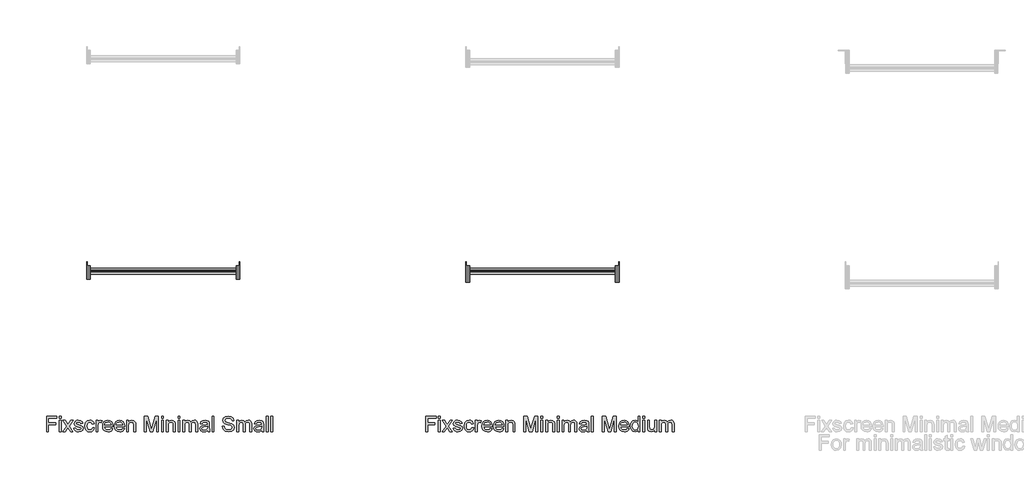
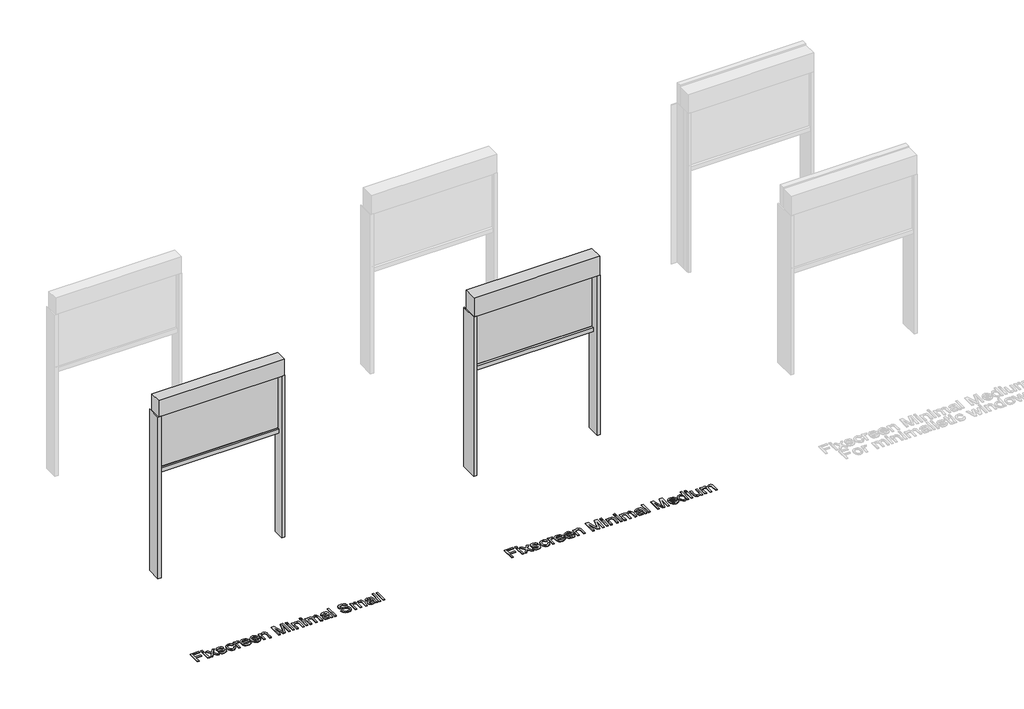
# One storey, part 1 of 3: 4 proxies.
"""IFC4 building model written with IfcOpenShell, lengths in millimetres."""

from ifc_helpers import new_model, si_unit, origin, origin_with_axes, place, context, project, spatial, polyline, outline, extrude, transform, mapped, element, save
from components import generic_models_a0941efc, generic_models_e03154b1

model = new_model("IFC4")

# Units and contexts
model_context = context("Model", 3, world=origin())
ifc_project = project(units=[si_unit("LENGTHUNIT", "METRE", prefix="MILLI")], contexts=[model_context])

# Site, building, storey
site = spatial("IfcSite", under=ifc_project)
building = spatial("IfcBuilding", under=site)
storey = spatial("IfcBuildingStorey", under=building, Name="Fixscreen Mini Overview Top", Elevation=0.0)

# Proxies
placement = place(None, origin())
generic_models_shape = generic_models_a0941efc(model_context)
element("IfcBuildingElementProxy", 1, Name="Renson_Fixscreen_Minimal_Single : Recessed - Front of the window - Small - Access downwards - Fabric close to the window", ObjectType="Renson_Fixscreen_Minimal_Single : Recessed - Front of the window - Small - Access downwards - Fabric close to the window", at=placement, inside=storey, context=model_context, shape_type="MappedRepresentation", body=[
    mapped(generic_models_shape, transform((-7521.5461115, -2124.4443675, 0.0), x_axis=(1.0, 0.0, 0.0), y_axis=(0.0, 1.0, 0.0), z_axis=(0.0, 0.0, 1.0))),
])
generic_models_2_shape = generic_models_e03154b1(model_context)
element("IfcBuildingElementProxy", 2, Name="Renson_Fixscreen_Minimal_Single : Recessed - Front of the window - Medium - Access downwards - Fabric close to the window", ObjectType="Renson_Fixscreen_Minimal_Single : Recessed - Front of the window - Medium - Access downwards - Fabric close to the window", at=placement, inside=storey, context=model_context, shape_type="MappedRepresentation", body=[
    mapped(generic_models_2_shape, transform((-5021.5461115, -2124.4443675, 0.0), x_axis=(1.0, 0.0, 0.0), y_axis=(0.0, 1.0, 0.0), z_axis=(0.0, 0.0, 1.0))),
])
element("IfcBuildingElementProxy", 3, Name="100mm Arial", ObjectType="100mm Arial", at=placement, inside=storey, context=model_context, shape_type="SweptSolid", body=[
    extrude(outline(polyline([(-8290.5587026, -2523.9021098), (-8290.5587026, -2423.4457997), (-8223.0646192, -2423.4457997), (-8223.0646192, -2436.0028384), (-8278.0016638, -2436.0028384), (-8278.0016638, -2465.8258055), (-8230.9127684, -2465.8258055), (-8230.9127684, -2478.3828443), (-8278.0016638, -2478.3828443), (-8278.0016638, -2523.9021098), (-8290.5587026, -2523.9021098)])), origin_with_axes(), (0.0, 0.0, 1.0), 5.0),
    extrude(outline(polyline([(-8207.3683207, -2523.9021098), (-8207.3683207, -2450.129507), (-8194.811282, -2450.129507), (-8194.811282, -2523.9021098), (-8207.3683207, -2523.9021098)])), origin_with_axes(), (0.0, 0.0, 1.0), 5.0),
    extrude(outline(polyline([(-8207.3683207, -2436.0028384), (-8207.3683207, -2423.4457997), (-8194.811282, -2423.4457997), (-8194.811282, -2436.0028384), (-8207.3683207, -2436.0028384)])), origin_with_axes(), (0.0, 0.0, 1.0), 5.0),
    extrude(outline(polyline([(-8183.823873, -2523.9021098), (-8156.9930128, -2486.8196047), (-8182.2542432, -2450.129507), (-8167.1465559, -2450.129507), (-8154.9573991, -2467.7878428), (-8149.2674909, -2476.1265014), (-8144.3378722, -2469.3084217), (-8130.4564583, -2450.129507), (-8115.348771, -2450.129507), (-8141.8853256, -2486.8196047), (-8116.3297896, -2523.9021098), (-8131.4374769, -2523.9021098), (-8146.8149443, -2501.6084609), (-8149.6353729, -2497.5372335), (-8168.7161858, -2523.9021098), (-8183.823873, -2523.9021098)])), origin_with_axes(), (0.0, 0.0, 1.0), 5.0),
    extrude(outline(polyline([(-8110.0512703, -2501.927292), (-8097.4942315, -2500.3576621), (-8091.681696, -2509.6773393), (-8078.3643677, -2512.9147009), (-8065.5620743, -2509.9471195), (-8061.392745, -2502.981887), (-8065.5865998, -2497.3410298), (-8078.5115205, -2493.7603117), (-8097.4206551, -2487.6166824), (-8105.6734745, -2480.4429835), (-8108.4816404, -2470.3139659), (-8106.2252975, -2460.9575004), (-8100.0694055, -2453.808327), (-8092.0863662, -2450.0927188), (-8081.2828982, -2448.5598772), (-8066.0035327, -2451.0246866), (-8056.291448, -2457.6956134), (-8051.974966, -2468.9650652), (-8064.5320047, -2470.534695), (-8069.253157, -2463.6062508), (-8080.3018796, -2461.116916), (-8092.3193581, -2463.4958862), (-8095.9246016, -2469.0386416), (-8094.4285482, -2472.6929361), (-8089.7441841, -2475.4643138), (-8078.9284535, -2478.1375896), (-8060.4975655, -2484.048227), (-8051.9381778, -2490.7436793), (-8048.8357063, -2501.6575118), (-8052.477738, -2513.6749903), (-8062.9869003, -2522.3937936), (-8078.536046, -2525.4717397), (-8091.197318, -2523.9879489), (-8100.4372875, -2519.5365768), (-8106.6054422, -2512.1666742), (-8110.0512703, -2501.927292)])), origin_with_axes(), (0.0, 0.0, 1.0), 5.0),
    extrude(outline(polyline([(-7987.6201423, -2497.2184024), (-7975.0631035, -2498.7880323), (-7978.5641138, -2509.9563165), (-7985.1430702, -2518.3961426), (-7994.1807045, -2523.7028404), (-8005.0577488, -2525.4717397), (-8018.4149309, -2523.0038646), (-8028.8597139, -2515.6002395), (-8035.6011515, -2503.5858266), (-8037.8482973, -2487.2855886), (-8034.0100619, -2466.4266794), (-8022.3114144, -2453.0235121), (-8005.2294271, -2448.5598772), (-7994.6190972, -2450.0927188), (-7986.1363516, -2454.6912438), (-7980.0509702, -2462.1101974), (-7976.6327333, -2472.1043249), (-7989.1897721, -2473.6739547), (-7995.0145704, -2464.2684384), (-8005.1313252, -2461.116916), (-8013.2461889, -2462.6681517), (-8019.6871895, -2467.321859), (-8023.8902413, -2475.3294237), (-8025.2912586, -2486.942232), (-8023.9208981, -2498.7113902), (-8019.8098168, -2506.7465461), (-8013.4853122, -2511.3726622), (-8005.4746818, -2512.9147009), (-7993.6411443, -2509.0642027), (-7987.6201423, -2497.2184024)])), origin_with_axes(), (0.0, 0.0, 1.0), 5.0),
    extrude(outline(polyline([(-7964.0756946, -2523.9021098), (-7964.0756946, -2450.129507), (-7953.0882857, -2450.129507), (-7953.0882857, -2461.0433396), (-7945.2891874, -2450.9878984), (-7937.4410381, -2448.5598772), (-7924.8349484, -2452.4349009), (-7929.0288032, -2463.6920899), (-7937.8579711, -2461.116916), (-7944.9580936, -2463.5939881), (-7949.4830421, -2470.4611186), (-7951.5186558, -2485.1273475), (-7951.5186558, -2523.9021098), (-7964.0756946, -2523.9021098)])), origin_with_axes(), (0.0, 0.0, 1.0), 5.0),
    extrude(outline(polyline([(-7865.3361671, -2501.927292), (-7853.024383, -2503.4969218), (-7857.4604267, -2512.7736795), (-7864.5390894, -2519.7082551), (-7874.1009556, -2524.0308685), (-7885.9866097, -2525.4717397), (-7900.7202836, -2522.9854705), (-7912.0571805, -2515.5266631), (-7919.2860617, -2503.5796953), (-7921.6956887, -2487.6289451), (-7919.2615362, -2471.1417003), (-7911.9590786, -2458.8115221), (-7900.7754659, -2451.1227884), (-7886.6978483, -2448.5598772), (-7873.0586233, -2451.1166571), (-7862.1601192, -2458.7869967), (-7855.0140114, -2471.0926494), (-7852.6319755, -2487.5553687), (-7852.7055519, -2490.939883), (-7909.13865, -2490.939883), (-7906.9650805, -2500.339268), (-7901.9159001, -2507.2493182), (-7894.6287709, -2511.4983552), (-7885.7413551, -2512.9147009), (-7873.429571, -2510.290476), (-7865.3361671, -2501.927292)]), holes=[polyline([(-7909.13865, -2478.3828443), (-7865.1890143, -2478.3828443), (-7870.2167349, -2467.0030279), (-7877.5375866, -2462.588444), (-7886.7468992, -2461.116916), (-7902.2102057, -2465.8135428), (-7907.0754451, -2471.3041816), (-7909.13865, -2478.3828443)])]), origin_with_axes(), (0.0, 0.0, 1.0), 5.0),
    extrude(outline(polyline([(-7788.4243046, -2501.927292), (-7776.1125205, -2503.4969218), (-7780.5485642, -2512.7736795), (-7787.627227, -2519.7082551), (-7797.1890931, -2524.0308685), (-7809.0747473, -2525.4717397), (-7823.8084212, -2522.9854705), (-7835.145318, -2515.5266631), (-7842.3741992, -2503.5796953), (-7844.7838263, -2487.6289451), (-7842.3496737, -2471.1417003), (-7835.0472161, -2458.8115221), (-7823.8636035, -2451.1227884), (-7809.7859858, -2448.5598772), (-7796.1467608, -2451.1166571), (-7785.2482567, -2458.7869967), (-7778.102149, -2471.0926494), (-7775.720113, -2487.5553687), (-7775.7936894, -2490.939883), (-7832.2267875, -2490.939883), (-7830.0532181, -2500.339268), (-7825.0040377, -2507.2493182), (-7817.7169085, -2511.4983552), (-7808.8294926, -2512.9147009), (-7796.5177085, -2510.290476), (-7788.4243046, -2501.927292)]), holes=[polyline([(-7832.2267875, -2478.3828443), (-7788.2771518, -2478.3828443), (-7793.3048724, -2467.0030279), (-7800.6257241, -2462.588444), (-7809.8350367, -2461.116916), (-7825.2983433, -2465.8135428), (-7830.1635827, -2471.3041816), (-7832.2267875, -2478.3828443)])]), origin_with_axes(), (0.0, 0.0, 1.0), 5.0),
    extrude(outline(polyline([(-7763.1630743, -2523.9021098), (-7763.1630743, -2450.129507), (-7750.6060355, -2450.129507), (-7750.6060355, -2460.4302029), (-7741.0043154, -2451.5274586), (-7727.8954537, -2448.5598772), (-7716.0373907, -2450.9511102), (-7707.9439868, -2457.2296296), (-7704.1793277, -2466.4634676), (-7703.5171401, -2478.6035735), (-7703.5171401, -2523.9021098), (-7716.0741789, -2523.9021098), (-7716.0741789, -2480.2958307), (-7717.5211814, -2469.1857944), (-7722.6347411, -2463.3119452), (-7731.2554426, -2461.116916), (-7744.8793391, -2466.0465347), (-7749.1743614, -2473.1895768), (-7750.6060355, -2484.7594655), (-7750.6060355, -2523.9021098), (-7763.1630743, -2523.9021098)])), origin_with_axes(), (0.0, 0.0, 1.0), 5.0),
    extrude(outline(polyline([(-7645.4408358, -2523.9021098), (-7645.4408358, -2423.4457997), (-7623.8339, -2423.4457997), (-7603.2815592, -2494.250821), (-7599.1367554, -2509.0396772), (-7594.648595, -2493.0245477), (-7574.4396108, -2423.4457997), (-7552.8326749, -2423.4457997), (-7552.8326749, -2523.9021098), (-7565.3897137, -2523.9021098), (-7565.3897137, -2436.0028384), (-7590.6264185, -2523.9021098), (-7607.6470922, -2523.9021098), (-7632.8837971, -2436.0028384), (-7632.8837971, -2523.9021098), (-7645.4408358, -2523.9021098)])), origin_with_axes(), (0.0, 0.0, 1.0), 5.0),
    extrude(outline(polyline([(-7532.4274869, -2436.0028384), (-7532.4274869, -2423.4457997), (-7519.8704481, -2423.4457997), (-7519.8704481, -2436.0028384), (-7532.4274869, -2436.0028384)])), origin_with_axes(), (0.0, 0.0, 1.0), 5.0),
    extrude(outline(polyline([(-7532.4274869, -2523.9021098), (-7532.4274869, -2450.129507), (-7519.8704481, -2450.129507), (-7519.8704481, -2523.9021098), (-7532.4274869, -2523.9021098)])), origin_with_axes(), (0.0, 0.0, 1.0), 5.0),
    extrude(outline(polyline([(-7501.03489, -2523.9021098), (-7501.03489, -2450.129507), (-7488.4778512, -2450.129507), (-7488.4778512, -2460.4302029), (-7478.8761311, -2451.5274586), (-7465.7672694, -2448.5598772), (-7453.9092064, -2450.9511102), (-7445.8158025, -2457.2296296), (-7442.0511434, -2466.4634676), (-7441.3889558, -2478.6035735), (-7441.3889558, -2523.9021098), (-7453.9459946, -2523.9021098), (-7453.9459946, -2480.2958307), (-7455.3929971, -2469.1857944), (-7460.5065568, -2463.3119452), (-7469.1272583, -2461.116916), (-7482.7511548, -2466.0465347), (-7487.0461771, -2473.1895768), (-7488.4778512, -2484.7594655), (-7488.4778512, -2523.9021098), (-7501.03489, -2523.9021098)])), origin_with_axes(), (0.0, 0.0, 1.0), 5.0),
    extrude(outline(polyline([(-7424.1230275, -2523.9021098), (-7424.1230275, -2450.129507), (-7411.5659888, -2450.129507), (-7411.5659888, -2523.9021098), (-7424.1230275, -2523.9021098)])), origin_with_axes(), (0.0, 0.0, 1.0), 5.0),
    extrude(outline(polyline([(-7424.1230275, -2436.0028384), (-7424.1230275, -2423.4457997), (-7411.5659888, -2423.4457997), (-7411.5659888, -2436.0028384), (-7424.1230275, -2436.0028384)])), origin_with_axes(), (0.0, 0.0, 1.0), 5.0),
    extrude(outline(polyline([(-7392.7304306, -2523.9021098), (-7392.7304306, -2450.129507), (-7380.1733918, -2450.129507), (-7380.1733918, -2462.2696129), (-7371.5404277, -2452.3245363), (-7359.253169, -2448.5598772), (-7346.6716048, -2452.3981127), (-7339.7554233, -2463.1525297), (-7329.9574995, -2452.2080403), (-7317.5844017, -2448.5598772), (-7308.1451629, -2450.0773904), (-7301.164602, -2454.6299301), (-7296.8511856, -2462.3401236), (-7295.4133801, -2473.3305982), (-7295.4133801, -2523.9021098), (-7307.9704189, -2523.9021098), (-7307.9704189, -2478.7262008), (-7309.1353786, -2468.2415639), (-7313.3537588, -2463.0789533), (-7320.5274577, -2461.116916), (-7332.87603, -2466.1446366), (-7336.564047, -2472.6868047), (-7337.793386, -2482.257868), (-7337.793386, -2523.9021098), (-7350.3504248, -2523.9021098), (-7350.3504248, -2477.3282492), (-7353.2566925, -2465.1636179), (-7362.7848362, -2461.116916), (-7372.0799879, -2463.8147173), (-7378.2604055, -2471.7119174), (-7380.1733918, -2486.6969774), (-7380.1733918, -2523.9021098), (-7392.7304306, -2523.9021098)])), origin_with_axes(), (0.0, 0.0, 1.0), 5.0),
    extrude(outline(polyline([(-7229.4889266, -2514.4843307), (-7241.6658206, -2522.9946676), (-7255.1180389, -2525.4717397), (-7265.6118729, -2523.9818176), (-7273.3527232, -2519.5120513), (-7278.1259921, -2512.7246285), (-7279.7170817, -2504.2817367), (-7277.313586, -2494.3489229), (-7270.9982784, -2487.1384358), (-7262.2058987, -2483.0181574), (-7251.3411171, -2481.1296965), (-7229.562503, -2476.8132144), (-7229.4889266, -2474.0173113), (-7232.9470174, -2464.746685), (-7246.8284313, -2461.116916), (-7259.5326229, -2463.5326744), (-7265.5904131, -2472.1043249), (-7278.1474518, -2470.534695), (-7272.715061, -2458.2719619), (-7261.7767031, -2451.0860002), (-7245.2097505, -2448.5598772), (-7229.9916987, -2450.7916946), (-7221.3955227, -2456.3957637), (-7217.5450245, -2464.9183633), (-7216.9318878, -2475.9057722), (-7216.9318878, -2491.5284942), (-7216.2942257, -2513.3438966), (-7213.7926281, -2523.9021098), (-7226.3496669, -2523.9021098), (-7229.4889266, -2514.4843307)]), holes=[polyline([(-7229.4889266, -2489.3702532), (-7249.7469618, -2493.2207514), (-7260.5504297, -2495.2563651), (-7265.4432603, -2498.5673031), (-7267.1600429, -2503.39882), (-7263.4199093, -2510.1923741), (-7252.4447631, -2512.9147009), (-7239.7405715, -2509.9103313), (-7231.5490658, -2502.6385305), (-7229.562503, -2492.9264458), (-7229.4889266, -2489.3702532)])]), origin_with_axes(), (0.0, 0.0, 1.0), 5.0),
    extrude(outline(polyline([(-7199.6659595, -2523.9021098), (-7199.6659595, -2423.4457997), (-7187.1089208, -2423.4457997), (-7187.1089208, -2523.9021098), (-7199.6659595, -2523.9021098)])), origin_with_axes(), (0.0, 0.0, 1.0), 5.0),
    extrude(outline(polyline([(-7132.1718762, -2489.3702532), (-7119.6148374, -2489.3702532), (-7115.5681354, -2501.9395547), (-7105.6843725, -2509.8858058), (-7090.6257362, -2512.9147009), (-7077.5046117, -2510.6215698), (-7069.031063, -2504.3185249), (-7066.2474226, -2495.8940272), (-7068.3320873, -2488.0581408), (-7076.8669495, -2482.3559698), (-7095.1506847, -2477.5612412), (-7114.8323714, -2471.3685609), (-7125.513212, -2462.0243582), (-7129.0326165, -2449.5408959), (-7124.6793462, -2435.3283881), (-7111.9628919, -2425.2974724), (-7093.3480629, -2421.8761698), (-7073.4824352, -2425.4568879), (-7060.2386834, -2435.978313), (-7055.2600137, -2451.6991369), (-7067.8170525, -2451.6991369), (-7070.1224463, -2444.2066069), (-7074.9294377, -2438.7987416), (-7092.8575536, -2434.4332086), (-7110.8347204, -2438.7496907), (-7116.4755777, -2449.1730139), (-7112.4779267, -2457.8795544), (-7091.9746368, -2464.8938378), (-7069.7545643, -2471.1968826), (-7057.6021957, -2481.3749512), (-7053.6903838, -2495.5751962), (-7058.1908069, -2510.5970443), (-7071.1402532, -2521.5599278), (-7090.1352268, -2525.4717397), (-7112.5637658, -2521.2533595), (-7126.7517481, -2508.5491679), (-7132.1718762, -2489.3702532)])), origin_with_axes(), (0.0, 0.0, 1.0), 5.0),
    extrude(outline(polyline([(-7036.4244555, -2523.9021098), (-7036.4244555, -2450.129507), (-7023.8674168, -2450.129507), (-7023.8674168, -2462.2696129), (-7015.2344526, -2452.3245363), (-7002.947194, -2448.5598772), (-6990.3656297, -2452.3981127), (-6983.4494482, -2463.1525297), (-6973.6515244, -2452.2080403), (-6961.2784267, -2448.5598772), (-6951.8391878, -2450.0773904), (-6944.8586269, -2454.6299301), (-6940.5452105, -2462.3401236), (-6939.1074051, -2473.3305982), (-6939.1074051, -2523.9021098), (-6951.6644439, -2523.9021098), (-6951.6644439, -2478.7262008), (-6952.8294035, -2468.2415639), (-6957.0477837, -2463.0789533), (-6964.2214826, -2461.116916), (-6976.5700549, -2466.1446366), (-6980.2580719, -2472.6868047), (-6981.4874109, -2482.257868), (-6981.4874109, -2523.9021098), (-6994.0444497, -2523.9021098), (-6994.0444497, -2477.3282492), (-6996.9507175, -2465.1636179), (-7006.4788611, -2461.116916), (-7015.7740129, -2463.8147173), (-7021.9544304, -2471.7119174), (-7023.8674168, -2486.6969774), (-7023.8674168, -2523.9021098), (-7036.4244555, -2523.9021098)])), origin_with_axes(), (0.0, 0.0, 1.0), 5.0),
    extrude(outline(polyline([(-6873.1829515, -2514.4843307), (-6885.3598456, -2522.9946676), (-6898.8120639, -2525.4717397), (-6909.3058978, -2523.9818176), (-6917.0467481, -2519.5120513), (-6921.820017, -2512.7246285), (-6923.4111066, -2504.2817367), (-6921.0076109, -2494.3489229), (-6914.6923033, -2487.1384358), (-6905.8999237, -2483.0181574), (-6895.0351421, -2481.1296965), (-6873.2565279, -2476.8132144), (-6873.1829515, -2474.0173113), (-6876.6410423, -2464.746685), (-6890.5224563, -2461.116916), (-6903.2266478, -2463.5326744), (-6909.284438, -2472.1043249), (-6921.8414768, -2470.534695), (-6916.409086, -2458.2719619), (-6905.470728, -2451.0860002), (-6888.9037755, -2448.5598772), (-6873.6857236, -2450.7916946), (-6865.0895477, -2456.3957637), (-6861.2390494, -2464.9183633), (-6860.6259128, -2475.9057722), (-6860.6259128, -2491.5284942), (-6859.9882507, -2513.3438966), (-6857.4866531, -2523.9021098), (-6870.0436919, -2523.9021098), (-6873.1829515, -2514.4843307)]), holes=[polyline([(-6873.1829515, -2489.3702532), (-6893.4409867, -2493.2207514), (-6904.2444547, -2495.2563651), (-6909.1372852, -2498.5673031), (-6910.8540679, -2503.39882), (-6907.1139342, -2510.1923741), (-6896.138788, -2512.9147009), (-6883.4345965, -2509.9103313), (-6875.2430907, -2502.6385305), (-6873.2565279, -2492.9264458), (-6873.1829515, -2489.3702532)])]), origin_with_axes(), (0.0, 0.0, 1.0), 5.0),
    extrude(outline(polyline([(-6843.3599845, -2523.9021098), (-6843.3599845, -2423.4457997), (-6830.8029457, -2423.4457997), (-6830.8029457, -2523.9021098), (-6843.3599845, -2523.9021098)])), origin_with_axes(), (0.0, 0.0, 1.0), 5.0),
    extrude(outline(polyline([(-6811.9673875, -2523.9021098), (-6811.9673875, -2423.4457997), (-6799.4103488, -2423.4457997), (-6799.4103488, -2523.9021098), (-6811.9673875, -2523.9021098)])), origin_with_axes(), (0.0, 0.0, 1.0), 5.0),
])
element("IfcBuildingElementProxy", 4, Name="100mm Arial", ObjectType="100mm Arial", at=placement, inside=storey, context=model_context, shape_type="SweptSolid", body=[
    extrude(outline(polyline([(-5790.5587026, -2523.9021098), (-5790.5587026, -2423.4457997), (-5723.0646192, -2423.4457997), (-5723.0646192, -2436.0028384), (-5778.0016638, -2436.0028384), (-5778.0016638, -2465.8258055), (-5730.9127684, -2465.8258055), (-5730.9127684, -2478.3828443), (-5778.0016638, -2478.3828443), (-5778.0016638, -2523.9021098), (-5790.5587026, -2523.9021098)])), origin_with_axes(), (0.0, 0.0, 1.0), 5.0),
    extrude(outline(polyline([(-5707.3683207, -2523.9021098), (-5707.3683207, -2450.129507), (-5694.811282, -2450.129507), (-5694.811282, -2523.9021098), (-5707.3683207, -2523.9021098)])), origin_with_axes(), (0.0, 0.0, 1.0), 5.0),
    extrude(outline(polyline([(-5707.3683207, -2436.0028384), (-5707.3683207, -2423.4457997), (-5694.811282, -2423.4457997), (-5694.811282, -2436.0028384), (-5707.3683207, -2436.0028384)])), origin_with_axes(), (0.0, 0.0, 1.0), 5.0),
    extrude(outline(polyline([(-5683.823873, -2523.9021098), (-5656.9930128, -2486.8196047), (-5682.2542432, -2450.129507), (-5667.1465559, -2450.129507), (-5654.9573991, -2467.7878428), (-5649.2674909, -2476.1265014), (-5644.3378722, -2469.3084217), (-5630.4564583, -2450.129507), (-5615.348771, -2450.129507), (-5641.8853256, -2486.8196047), (-5616.3297896, -2523.9021098), (-5631.4374769, -2523.9021098), (-5646.8149443, -2501.6084609), (-5649.6353729, -2497.5372335), (-5668.7161858, -2523.9021098), (-5683.823873, -2523.9021098)])), origin_with_axes(), (0.0, 0.0, 1.0), 5.0),
    extrude(outline(polyline([(-5610.0512703, -2501.927292), (-5597.4942315, -2500.3576621), (-5591.681696, -2509.6773393), (-5578.3643677, -2512.9147009), (-5565.5620743, -2509.9471195), (-5561.392745, -2502.981887), (-5565.5865998, -2497.3410298), (-5578.5115205, -2493.7603117), (-5597.4206551, -2487.6166824), (-5605.6734745, -2480.4429835), (-5608.4816404, -2470.3139659), (-5606.2252975, -2460.9575004), (-5600.0694055, -2453.808327), (-5592.0863662, -2450.0927188), (-5581.2828982, -2448.5598772), (-5566.0035327, -2451.0246866), (-5556.291448, -2457.6956134), (-5551.974966, -2468.9650652), (-5564.5320047, -2470.534695), (-5569.253157, -2463.6062508), (-5580.3018796, -2461.116916), (-5592.3193581, -2463.4958862), (-5595.9246016, -2469.0386416), (-5594.4285482, -2472.6929361), (-5589.7441841, -2475.4643138), (-5578.9284535, -2478.1375896), (-5560.4975655, -2484.048227), (-5551.9381778, -2490.7436793), (-5548.8357063, -2501.6575118), (-5552.477738, -2513.6749903), (-5562.9869003, -2522.3937936), (-5578.536046, -2525.4717397), (-5591.197318, -2523.9879489), (-5600.4372875, -2519.5365768), (-5606.6054422, -2512.1666742), (-5610.0512703, -2501.927292)])), origin_with_axes(), (0.0, 0.0, 1.0), 5.0),
    extrude(outline(polyline([(-5487.6201423, -2497.2184024), (-5475.0631035, -2498.7880323), (-5478.5641138, -2509.9563165), (-5485.1430702, -2518.3961426), (-5494.1807045, -2523.7028404), (-5505.0577488, -2525.4717397), (-5518.4149309, -2523.0038646), (-5528.8597139, -2515.6002395), (-5535.6011515, -2503.5858266), (-5537.8482973, -2487.2855886), (-5534.0100619, -2466.4266794), (-5522.3114144, -2453.0235121), (-5505.2294271, -2448.5598772), (-5494.6190972, -2450.0927188), (-5486.1363516, -2454.6912438), (-5480.0509702, -2462.1101974), (-5476.6327333, -2472.1043249), (-5489.1897721, -2473.6739547), (-5495.0145704, -2464.2684384), (-5505.1313252, -2461.116916), (-5513.2461889, -2462.6681517), (-5519.6871895, -2467.321859), (-5523.8902413, -2475.3294237), (-5525.2912586, -2486.942232), (-5523.9208981, -2498.7113902), (-5519.8098168, -2506.7465461), (-5513.4853122, -2511.3726622), (-5505.4746818, -2512.9147009), (-5493.6411443, -2509.0642027), (-5487.6201423, -2497.2184024)])), origin_with_axes(), (0.0, 0.0, 1.0), 5.0),
    extrude(outline(polyline([(-5464.0756946, -2523.9021098), (-5464.0756946, -2450.129507), (-5453.0882857, -2450.129507), (-5453.0882857, -2461.0433396), (-5445.2891874, -2450.9878984), (-5437.4410381, -2448.5598772), (-5424.8349484, -2452.4349009), (-5429.0288032, -2463.6920899), (-5437.8579711, -2461.116916), (-5444.9580936, -2463.5939881), (-5449.4830421, -2470.4611186), (-5451.5186558, -2485.1273475), (-5451.5186558, -2523.9021098), (-5464.0756946, -2523.9021098)])), origin_with_axes(), (0.0, 0.0, 1.0), 5.0),
    extrude(outline(polyline([(-5365.3361671, -2501.927292), (-5353.024383, -2503.4969218), (-5357.4604267, -2512.7736795), (-5364.5390894, -2519.7082551), (-5374.1009556, -2524.0308685), (-5385.9866097, -2525.4717397), (-5400.7202836, -2522.9854705), (-5412.0571805, -2515.5266631), (-5419.2860617, -2503.5796953), (-5421.6956887, -2487.6289451), (-5419.2615362, -2471.1417003), (-5411.9590786, -2458.8115221), (-5400.7754659, -2451.1227884), (-5386.6978483, -2448.5598772), (-5373.0586233, -2451.1166571), (-5362.1601192, -2458.7869967), (-5355.0140114, -2471.0926494), (-5352.6319755, -2487.5553687), (-5352.7055519, -2490.939883), (-5409.13865, -2490.939883), (-5406.9650805, -2500.339268), (-5401.9159001, -2507.2493182), (-5394.6287709, -2511.4983552), (-5385.7413551, -2512.9147009), (-5373.429571, -2510.290476), (-5365.3361671, -2501.927292)]), holes=[polyline([(-5409.13865, -2478.3828443), (-5365.1890143, -2478.3828443), (-5370.2167349, -2467.0030279), (-5377.5375866, -2462.588444), (-5386.7468992, -2461.116916), (-5402.2102057, -2465.8135428), (-5407.0754451, -2471.3041816), (-5409.13865, -2478.3828443)])]), origin_with_axes(), (0.0, 0.0, 1.0), 5.0),
    extrude(outline(polyline([(-5288.4243046, -2501.927292), (-5276.1125205, -2503.4969218), (-5280.5485642, -2512.7736795), (-5287.627227, -2519.7082551), (-5297.1890931, -2524.0308685), (-5309.0747473, -2525.4717397), (-5323.8084212, -2522.9854705), (-5335.145318, -2515.5266631), (-5342.3741992, -2503.5796953), (-5344.7838263, -2487.6289451), (-5342.3496737, -2471.1417003), (-5335.0472161, -2458.8115221), (-5323.8636035, -2451.1227884), (-5309.7859858, -2448.5598772), (-5296.1467608, -2451.1166571), (-5285.2482567, -2458.7869967), (-5278.102149, -2471.0926494), (-5275.720113, -2487.5553687), (-5275.7936894, -2490.939883), (-5332.2267875, -2490.939883), (-5330.0532181, -2500.339268), (-5325.0040377, -2507.2493182), (-5317.7169085, -2511.4983552), (-5308.8294926, -2512.9147009), (-5296.5177085, -2510.290476), (-5288.4243046, -2501.927292)]), holes=[polyline([(-5332.2267875, -2478.3828443), (-5288.2771518, -2478.3828443), (-5293.3048724, -2467.0030279), (-5300.6257241, -2462.588444), (-5309.8350367, -2461.116916), (-5325.2983433, -2465.8135428), (-5330.1635827, -2471.3041816), (-5332.2267875, -2478.3828443)])]), origin_with_axes(), (0.0, 0.0, 1.0), 5.0),
    extrude(outline(polyline([(-5263.1630743, -2523.9021098), (-5263.1630743, -2450.129507), (-5250.6060355, -2450.129507), (-5250.6060355, -2460.4302029), (-5241.0043154, -2451.5274586), (-5227.8954537, -2448.5598772), (-5216.0373907, -2450.9511102), (-5207.9439868, -2457.2296296), (-5204.1793277, -2466.4634676), (-5203.5171401, -2478.6035735), (-5203.5171401, -2523.9021098), (-5216.0741789, -2523.9021098), (-5216.0741789, -2480.2958307), (-5217.5211814, -2469.1857944), (-5222.6347411, -2463.3119452), (-5231.2554426, -2461.116916), (-5244.8793391, -2466.0465347), (-5249.1743614, -2473.1895768), (-5250.6060355, -2484.7594655), (-5250.6060355, -2523.9021098), (-5263.1630743, -2523.9021098)])), origin_with_axes(), (0.0, 0.0, 1.0), 5.0),
    extrude(outline(polyline([(-5145.4408358, -2523.9021098), (-5145.4408358, -2423.4457997), (-5123.8339, -2423.4457997), (-5103.2815592, -2494.250821), (-5099.1367554, -2509.0396772), (-5094.648595, -2493.0245477), (-5074.4396108, -2423.4457997), (-5052.8326749, -2423.4457997), (-5052.8326749, -2523.9021098), (-5065.3897137, -2523.9021098), (-5065.3897137, -2436.0028384), (-5090.6264185, -2523.9021098), (-5107.6470922, -2523.9021098), (-5132.8837971, -2436.0028384), (-5132.8837971, -2523.9021098), (-5145.4408358, -2523.9021098)])), origin_with_axes(), (0.0, 0.0, 1.0), 5.0),
    extrude(outline(polyline([(-5032.4274869, -2436.0028384), (-5032.4274869, -2423.4457997), (-5019.8704481, -2423.4457997), (-5019.8704481, -2436.0028384), (-5032.4274869, -2436.0028384)])), origin_with_axes(), (0.0, 0.0, 1.0), 5.0),
    extrude(outline(polyline([(-5032.4274869, -2523.9021098), (-5032.4274869, -2450.129507), (-5019.8704481, -2450.129507), (-5019.8704481, -2523.9021098), (-5032.4274869, -2523.9021098)])), origin_with_axes(), (0.0, 0.0, 1.0), 5.0),
    extrude(outline(polyline([(-5001.03489, -2523.9021098), (-5001.03489, -2450.129507), (-4988.4778512, -2450.129507), (-4988.4778512, -2460.4302029), (-4978.8761311, -2451.5274586), (-4965.7672694, -2448.5598772), (-4953.9092064, -2450.9511102), (-4945.8158025, -2457.2296296), (-4942.0511434, -2466.4634676), (-4941.3889558, -2478.6035735), (-4941.3889558, -2523.9021098), (-4953.9459946, -2523.9021098), (-4953.9459946, -2480.2958307), (-4955.3929971, -2469.1857944), (-4960.5065568, -2463.3119452), (-4969.1272583, -2461.116916), (-4982.7511548, -2466.0465347), (-4987.0461771, -2473.1895768), (-4988.4778512, -2484.7594655), (-4988.4778512, -2523.9021098), (-5001.03489, -2523.9021098)])), origin_with_axes(), (0.0, 0.0, 1.0), 5.0),
    extrude(outline(polyline([(-4924.1230275, -2523.9021098), (-4924.1230275, -2450.129507), (-4911.5659888, -2450.129507), (-4911.5659888, -2523.9021098), (-4924.1230275, -2523.9021098)])), origin_with_axes(), (0.0, 0.0, 1.0), 5.0),
    extrude(outline(polyline([(-4924.1230275, -2436.0028384), (-4924.1230275, -2423.4457997), (-4911.5659888, -2423.4457997), (-4911.5659888, -2436.0028384), (-4924.1230275, -2436.0028384)])), origin_with_axes(), (0.0, 0.0, 1.0), 5.0),
    extrude(outline(polyline([(-4892.7304306, -2523.9021098), (-4892.7304306, -2450.129507), (-4880.1733918, -2450.129507), (-4880.1733918, -2462.2696129), (-4871.5404277, -2452.3245363), (-4859.253169, -2448.5598772), (-4846.6716048, -2452.3981127), (-4839.7554233, -2463.1525297), (-4829.9574995, -2452.2080403), (-4817.5844017, -2448.5598772), (-4808.1451629, -2450.0773904), (-4801.164602, -2454.6299301), (-4796.8511856, -2462.3401236), (-4795.4133801, -2473.3305982), (-4795.4133801, -2523.9021098), (-4807.9704189, -2523.9021098), (-4807.9704189, -2478.7262008), (-4809.1353786, -2468.2415639), (-4813.3537588, -2463.0789533), (-4820.5274577, -2461.116916), (-4832.87603, -2466.1446366), (-4836.564047, -2472.6868047), (-4837.793386, -2482.257868), (-4837.793386, -2523.9021098), (-4850.3504248, -2523.9021098), (-4850.3504248, -2477.3282492), (-4853.2566925, -2465.1636179), (-4862.7848362, -2461.116916), (-4872.0799879, -2463.8147173), (-4878.2604055, -2471.7119174), (-4880.1733918, -2486.6969774), (-4880.1733918, -2523.9021098), (-4892.7304306, -2523.9021098)])), origin_with_axes(), (0.0, 0.0, 1.0), 5.0),
    extrude(outline(polyline([(-4729.4889266, -2514.4843307), (-4741.6658206, -2522.9946676), (-4755.1180389, -2525.4717397), (-4765.6118729, -2523.9818176), (-4773.3527232, -2519.5120513), (-4778.1259921, -2512.7246285), (-4779.7170817, -2504.2817367), (-4777.313586, -2494.3489229), (-4770.9982784, -2487.1384358), (-4762.2058987, -2483.0181574), (-4751.3411171, -2481.1296965), (-4729.562503, -2476.8132144), (-4729.4889266, -2474.0173113), (-4732.9470174, -2464.746685), (-4746.8284313, -2461.116916), (-4759.5326229, -2463.5326744), (-4765.5904131, -2472.1043249), (-4778.1474518, -2470.534695), (-4772.715061, -2458.2719619), (-4761.7767031, -2451.0860002), (-4745.2097505, -2448.5598772), (-4729.9916987, -2450.7916946), (-4721.3955227, -2456.3957637), (-4717.5450245, -2464.9183633), (-4716.9318878, -2475.9057722), (-4716.9318878, -2491.5284942), (-4716.2942257, -2513.3438966), (-4713.7926281, -2523.9021098), (-4726.3496669, -2523.9021098), (-4729.4889266, -2514.4843307)]), holes=[polyline([(-4729.4889266, -2489.3702532), (-4749.7469618, -2493.2207514), (-4760.5504297, -2495.2563651), (-4765.4432603, -2498.5673031), (-4767.1600429, -2503.39882), (-4763.4199093, -2510.1923741), (-4752.4447631, -2512.9147009), (-4739.7405715, -2509.9103313), (-4731.5490658, -2502.6385305), (-4729.562503, -2492.9264458), (-4729.4889266, -2489.3702532)])]), origin_with_axes(), (0.0, 0.0, 1.0), 5.0),
    extrude(outline(polyline([(-4699.6659595, -2523.9021098), (-4699.6659595, -2423.4457997), (-4687.1089208, -2423.4457997), (-4687.1089208, -2523.9021098), (-4699.6659595, -2523.9021098)])), origin_with_axes(), (0.0, 0.0, 1.0), 5.0),
    extrude(outline(polyline([(-4627.4629866, -2523.9021098), (-4627.4629866, -2423.4457997), (-4605.8560508, -2423.4457997), (-4585.30371, -2494.250821), (-4581.1589062, -2509.0396772), (-4576.6707458, -2493.0245477), (-4556.4617615, -2423.4457997), (-4534.8548257, -2423.4457997), (-4534.8548257, -2523.9021098), (-4547.4118645, -2523.9021098), (-4547.4118645, -2436.0028384), (-4572.6485693, -2523.9021098), (-4589.669243, -2523.9021098), (-4614.9059478, -2436.0028384), (-4614.9059478, -2523.9021098), (-4627.4629866, -2523.9021098)])), origin_with_axes(), (0.0, 0.0, 1.0), 5.0),
    extrude(outline(polyline([(-4462.7990056, -2501.927292), (-4450.4872215, -2503.4969218), (-4454.9232652, -2512.7736795), (-4462.0019279, -2519.7082551), (-4471.5637941, -2524.0308685), (-4483.4494482, -2525.4717397), (-4498.1831221, -2522.9854705), (-4509.520019, -2515.5266631), (-4516.7489002, -2503.5796953), (-4519.1585272, -2487.6289451), (-4516.7243747, -2471.1417003), (-4509.4219171, -2458.8115221), (-4498.2383044, -2451.1227884), (-4484.1606868, -2448.5598772), (-4470.5214618, -2451.1166571), (-4459.6229577, -2458.7869967), (-4452.4768499, -2471.0926494), (-4450.094814, -2487.5553687), (-4450.1683904, -2490.939883), (-4506.6014885, -2490.939883), (-4504.427919, -2500.339268), (-4499.3787386, -2507.2493182), (-4492.0916094, -2511.4983552), (-4483.2041936, -2512.9147009), (-4470.8924095, -2510.290476), (-4462.7990056, -2501.927292)]), holes=[polyline([(-4506.6014885, -2478.3828443), (-4462.6518528, -2478.3828443), (-4467.6795734, -2467.0030279), (-4475.0004251, -2462.588444), (-4484.2097377, -2461.116916), (-4499.6730442, -2465.8135428), (-4504.5382836, -2471.3041816), (-4506.6014885, -2478.3828443)])]), origin_with_axes(), (0.0, 0.0, 1.0), 5.0),
    extrude(outline(polyline([(-4392.0185097, -2523.9021098), (-4392.0185097, -2512.0563096), (-4400.3265114, -2522.1178821), (-4411.810561, -2525.4717397), (-4427.3597067, -2520.6156973), (-4438.3471156, -2507.0653772), (-4442.2466648, -2487.0893848), (-4438.653684, -2467.1011298), (-4427.8870042, -2453.3423431), (-4411.859612, -2448.5598772), (-4400.2835919, -2451.9811798), (-4392.0185097, -2460.8716613), (-4392.0185097, -2423.4457997), (-4379.4614709, -2423.4457997), (-4379.4614709, -2523.9021098), (-4392.0185097, -2523.9021098)]), holes=[polyline([(-4429.689626, -2487.0403339), (-4428.2732803, -2498.3986905), (-4424.0242433, -2506.476766), (-4417.8499571, -2511.3052172), (-4410.6578641, -2512.9147009), (-4403.4688368, -2511.3787936), (-4397.4509005, -2506.7710716), (-4393.3766074, -2499.0056958), (-4392.0185097, -2487.9968271), (-4393.4011329, -2475.9609545), (-4397.5490024, -2467.6161646), (-4403.7202228, -2462.7417281), (-4411.1728989, -2461.116916), (-4418.4385683, -2462.6773488), (-4424.3921253, -2467.3586472), (-4428.3652508, -2475.3999344), (-4429.689626, -2487.0403339)])]), origin_with_axes(), (0.0, 0.0, 1.0), 5.0),
    extrude(outline(polyline([(-4360.6259128, -2523.9021098), (-4360.6259128, -2450.129507), (-4348.068874, -2450.129507), (-4348.068874, -2523.9021098), (-4360.6259128, -2523.9021098)])), origin_with_axes(), (0.0, 0.0, 1.0), 5.0),
    extrude(outline(polyline([(-4360.6259128, -2436.0028384), (-4360.6259128, -2423.4457997), (-4348.068874, -2423.4457997), (-4348.068874, -2436.0028384), (-4360.6259128, -2436.0028384)])), origin_with_axes(), (0.0, 0.0, 1.0), 5.0),
    extrude(outline(polyline([(-4282.1444205, -2523.9021098), (-4282.1444205, -2511.2224437), (-4291.9791325, -2521.9094157), (-4304.8059514, -2525.4717397), (-4316.6149634, -2522.9701421), (-4324.7574182, -2516.6916227), (-4328.4975519, -2507.4455219), (-4329.2333159, -2495.7713999), (-4329.2333159, -2450.129507), (-4316.6762771, -2450.129507), (-4316.6762771, -2489.8607625), (-4315.9159876, -2502.663056), (-4310.9495807, -2510.1801114), (-4301.5931153, -2512.9147009), (-4291.1084784, -2510.1187977), (-4284.1800342, -2502.5036404), (-4282.1444205, -2488.5118619), (-4282.1444205, -2450.129507), (-4269.5873817, -2450.129507), (-4269.5873817, -2523.9021098), (-4282.1444205, -2523.9021098)])), origin_with_axes(), (0.0, 0.0, 1.0), 5.0),
    extrude(outline(polyline([(-4252.3214534, -2523.9021098), (-4252.3214534, -2450.129507), (-4239.7644146, -2450.129507), (-4239.7644146, -2462.2696129), (-4231.1314505, -2452.3245363), (-4218.8441918, -2448.5598772), (-4206.2626276, -2452.3981127), (-4199.3464461, -2463.1525297), (-4189.5485223, -2452.2080403), (-4177.1754245, -2448.5598772), (-4167.7361857, -2450.0773904), (-4160.7556248, -2454.6299301), (-4156.4422084, -2462.3401236), (-4155.0044029, -2473.3305982), (-4155.0044029, -2523.9021098), (-4167.5614417, -2523.9021098), (-4167.5614417, -2478.7262008), (-4168.7264014, -2468.2415639), (-4172.9447816, -2463.0789533), (-4180.1184805, -2461.116916), (-4192.4670528, -2466.1446366), (-4196.1550698, -2472.6868047), (-4197.3844088, -2482.257868), (-4197.3844088, -2523.9021098), (-4209.9414476, -2523.9021098), (-4209.9414476, -2477.3282492), (-4212.8477153, -2465.1636179), (-4222.375859, -2461.116916), (-4231.6710107, -2463.8147173), (-4237.8514283, -2471.7119174), (-4239.7644146, -2486.6969774), (-4239.7644146, -2523.9021098), (-4252.3214534, -2523.9021098)])), origin_with_axes(), (0.0, 0.0, 1.0), 5.0),
])

save(model, "model.ifc")
